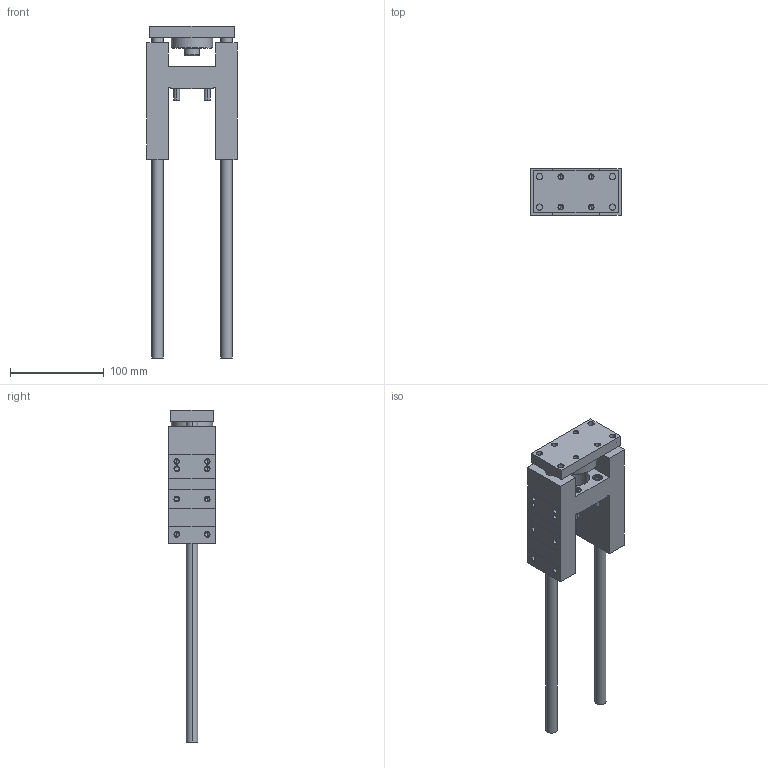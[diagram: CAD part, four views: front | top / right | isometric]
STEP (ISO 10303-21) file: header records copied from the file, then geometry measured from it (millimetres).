
FILE_DESCRIPTION (( 'STEP AP203' ), '1' );
FILE_NAME ('GB32-200.STEP', '2020-04-24T11:11:06', ( '' ), ( '' ), 'SwSTEP 2.0', 'SolidWorks 2019', '' );
FILE_SCHEMA (( 'CONFIG_CONTROL_DESIGN' ));
Length unit declared in the file: millimetre
Products named in the file (1): GB32-200
Bounding box: 97 x 50 x 355 mm (x, y, z)
Volume: 439175.2 mm3; surface area: 107436 mm2
Topology: 6 solids, 6 shells, 377 faces, 862 edges, 494 vertices
Faces by surface type: cone 154, plane 117, cylinder 106
Entity records: 11155 total; most frequent: CARTESIAN_POINT 2540, DIRECTION 1916, ORIENTED_EDGE 1660, EDGE_CURVE 830, AXIS2_PLACEMENT_3D 756, VERTEX_POINT 494, EDGE_LOOP 444, LINE 404
